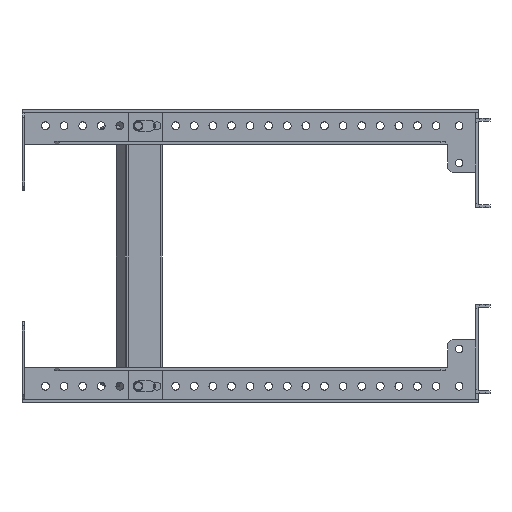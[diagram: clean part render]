
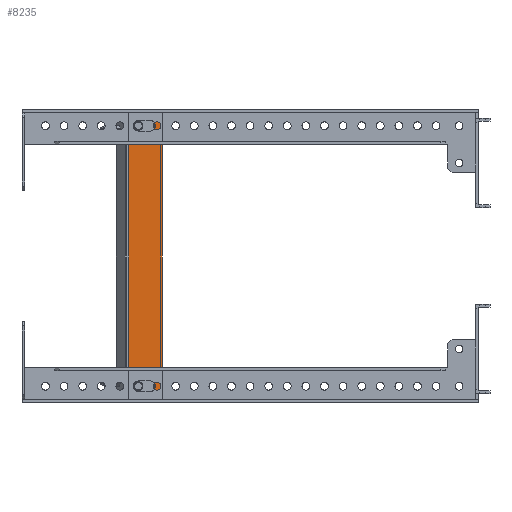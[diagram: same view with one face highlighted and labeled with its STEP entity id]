
A CAD part, front view. The second image highlights one B-rep face of the part: STEP entity #8235.
In plain terms, the highlighted planar face has unit normal (0, -1, 0).
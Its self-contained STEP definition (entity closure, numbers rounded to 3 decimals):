
#17 = VERTEX_POINT ( 'NONE', #3337 ) ;
#155 = CARTESIAN_POINT ( 'NONE',  ( 1112.27, -253.815, -87.5 ) ) ;
#318 = AXIS2_PLACEMENT_3D ( 'NONE', #4462, #26745, #6806 ) ;
#543 = ORIENTED_EDGE ( 'NONE', *, *, #15740, .F. ) ;
#720 = DIRECTION ( 'NONE',  ( 0., 0., 1. ) ) ;
#740 = CARTESIAN_POINT ( 'NONE',  ( 1112.27, -253.815, -87.5 ) ) ;
#890 = DIRECTION ( 'NONE',  ( 0., 1., 0. ) ) ;
#1353 = CARTESIAN_POINT ( 'NONE',  ( 1120.27, -253.815, -91. ) ) ;
#1825 = EDGE_LOOP ( 'NONE', ( #10260, #23550, #7452, #19256, #10959 ) ) ;
#2160 = VECTOR ( 'NONE', #27964, 1000. ) ;
#2493 = CARTESIAN_POINT ( 'NONE',  ( 1112.27, -253.815, 84. ) ) ;
#2789 = DIRECTION ( 'NONE',  ( 1., 0., 0. ) ) ;
#3027 = LINE ( 'NONE', #19038, #2160 ) ;
#3036 = VERTEX_POINT ( 'NONE', #24972 ) ;
#3078 = CARTESIAN_POINT ( 'NONE',  ( 1128.272, -253.815, -97.5 ) ) ;
#3115 = ORIENTED_EDGE ( 'NONE', *, *, #17587, .F. ) ;
#3142 = LINE ( 'NONE', #27764, #12387 ) ;
#3200 = AXIS2_PLACEMENT_3D ( 'NONE', #3317, #3455, #5795 ) ;
#3317 = CARTESIAN_POINT ( 'NONE',  ( 1112.27, -253.815, 87.5 ) ) ;
#3337 = CARTESIAN_POINT ( 'NONE',  ( 1120.27, -253.815, -84. ) ) ;
#3431 = ORIENTED_EDGE ( 'NONE', *, *, #8069, .F. ) ;
#3455 = DIRECTION ( 'NONE',  ( 0., 1., 0. ) ) ;
#3867 = EDGE_CURVE ( 'NONE', #24662, #13215, #24744, .T. ) ;
#4089 = CIRCLE ( 'NONE', #15793, 3.5 ) ;
#4462 = CARTESIAN_POINT ( 'NONE',  ( 1120.27, -253.815, 87.5 ) ) ;
#5795 = DIRECTION ( 'NONE',  ( -1., 0., 0. ) ) ;
#5936 = DIRECTION ( 'NONE',  ( -1., 0., 0. ) ) ;
#6148 = EDGE_CURVE ( 'NONE', #18555, #22406, #21404, .T. ) ;
#6234 = EDGE_CURVE ( 'NONE', #13215, #12507, #4089, .T. ) ;
#6350 = EDGE_CURVE ( 'NONE', #3036, #24662, #12973, .T. ) ;
#6570 = VERTEX_POINT ( 'NONE', #14425 ) ;
#6806 = DIRECTION ( 'NONE',  ( -1., 0., 0. ) ) ;
#6813 = VERTEX_POINT ( 'NONE', #9101 ) ;
#7278 = AXIS2_PLACEMENT_3D ( 'NONE', #27669, #7572, #16528 ) ;
#7364 = DIRECTION ( 'NONE',  ( 1., 0., 0. ) ) ;
#7428 = EDGE_CURVE ( 'NONE', #12507, #25730, #17265, .T. ) ;
#7437 = CARTESIAN_POINT ( 'NONE',  ( 1112.27, -253.815, 84. ) ) ;
#7452 = ORIENTED_EDGE ( 'NONE', *, *, #18800, .T. ) ;
#7495 = DIRECTION ( 'NONE',  ( -1., 0., 0. ) ) ;
#7572 = DIRECTION ( 'NONE',  ( 0., -1., 0. ) ) ;
#8008 = EDGE_CURVE ( 'NONE', #16270, #27980, #15580, .T. ) ;
#8069 = EDGE_CURVE ( 'NONE', #22406, #6813, #25697, .T. ) ;
#8233 = FACE_BOUND ( 'NONE', #12968, .T. ) ;
#8235 = ADVANCED_FACE ( 'NONE', ( #26112, #8233, #23624 ), #23785, .F. ) ;
#8678 = LINE ( 'NONE', #11165, #15634 ) ;
#8752 = AXIS2_PLACEMENT_3D ( 'NONE', #740, #16447, #7495 ) ;
#9101 = CARTESIAN_POINT ( 'NONE',  ( 1112.27, -253.815, -91. ) ) ;
#9198 = DIRECTION ( 'NONE',  ( -1., 0., 0. ) ) ;
#9845 = DIRECTION ( 'NONE',  ( 1., 0., 0. ) ) ;
#10260 = ORIENTED_EDGE ( 'NONE', *, *, #6234, .T. ) ;
#10564 = CIRCLE ( 'NONE', #7278, 3.5 ) ;
#10959 = ORIENTED_EDGE ( 'NONE', *, *, #3867, .T. ) ;
#10985 = VECTOR ( 'NONE', #9198, 1000. ) ;
#11039 = CARTESIAN_POINT ( 'NONE',  ( 1150.113, -253.815, -97.5 ) ) ;
#11165 = CARTESIAN_POINT ( 'NONE',  ( 1105.77, -253.815, -97.5 ) ) ;
#11217 = ORIENTED_EDGE ( 'NONE', *, *, #25910, .T. ) ;
#11560 = ORIENTED_EDGE ( 'NONE', *, *, #23592, .F. ) ;
#12387 = VECTOR ( 'NONE', #5936, 1000. ) ;
#12398 = CARTESIAN_POINT ( 'NONE',  ( 1108.77, -253.815, 87.5 ) ) ;
#12507 = VERTEX_POINT ( 'NONE', #12398 ) ;
#12589 = AXIS2_PLACEMENT_3D ( 'NONE', #155, #27277, #18070 ) ;
#12968 = EDGE_LOOP ( 'NONE', ( #543, #3431, #16939, #3115, #23698 ) ) ;
#12973 = CIRCLE ( 'NONE', #318, 3.5 ) ;
#13215 = VERTEX_POINT ( 'NONE', #2493 ) ;
#13633 = VERTEX_POINT ( 'NONE', #22852 ) ;
#14425 = CARTESIAN_POINT ( 'NONE',  ( 1105.77, -253.815, 97.5 ) ) ;
#14914 = EDGE_CURVE ( 'NONE', #25631, #17, #10564, .T. ) ;
#15277 = VECTOR ( 'NONE', #720, 1000. ) ;
#15306 = VECTOR ( 'NONE', #7364, 1000. ) ;
#15580 = LINE ( 'NONE', #11039, #19634 ) ;
#15634 = VECTOR ( 'NONE', #26832, 1000. ) ;
#15739 = DIRECTION ( 'NONE',  ( -1., 0., 0. ) ) ;
#15740 = EDGE_CURVE ( 'NONE', #6813, #25631, #27288, .T. ) ;
#15793 = AXIS2_PLACEMENT_3D ( 'NONE', #16687, #16391, #25312 ) ;
#16270 = VERTEX_POINT ( 'NONE', #3078 ) ;
#16391 = DIRECTION ( 'NONE',  ( 0., 1., 0. ) ) ;
#16447 = DIRECTION ( 'NONE',  ( 0., -1., 0. ) ) ;
#16528 = DIRECTION ( 'NONE',  ( -1., 0., 0. ) ) ;
#16610 = VECTOR ( 'NONE', #2789, 1000. ) ;
#16687 = CARTESIAN_POINT ( 'NONE',  ( 1112.27, -253.815, 87.5 ) ) ;
#16939 = ORIENTED_EDGE ( 'NONE', *, *, #6148, .F. ) ;
#17260 = EDGE_CURVE ( 'NONE', #27980, #6570, #8678, .T. ) ;
#17265 = CIRCLE ( 'NONE', #3200, 3.5 ) ;
#17587 = EDGE_CURVE ( 'NONE', #17, #18555, #3142, .T. ) ;
#18070 = DIRECTION ( 'NONE',  ( -1., 0., 0. ) ) ;
#18492 = CARTESIAN_POINT ( 'NONE',  ( 1105.77, -253.815, 97.5 ) ) ;
#18555 = VERTEX_POINT ( 'NONE', #21983 ) ;
#18800 = EDGE_CURVE ( 'NONE', #25730, #3036, #3027, .T. ) ;
#19038 = CARTESIAN_POINT ( 'NONE',  ( 1112.27, -253.815, 91. ) ) ;
#19256 = ORIENTED_EDGE ( 'NONE', *, *, #6350, .T. ) ;
#19634 = VECTOR ( 'NONE', #15739, 1000. ) ;
#19963 = ORIENTED_EDGE ( 'NONE', *, *, #8008, .F. ) ;
#20000 = CARTESIAN_POINT ( 'NONE',  ( 1120.27, -253.815, 84. ) ) ;
#20435 = CARTESIAN_POINT ( 'NONE',  ( 1112.27, -253.815, -91. ) ) ;
#20821 = LINE ( 'NONE', #27122, #15277 ) ;
#20996 = CARTESIAN_POINT ( 'NONE',  ( 1150.737, -253.815, 0. ) ) ;
#21404 = CIRCLE ( 'NONE', #8752, 3.5 ) ;
#21510 = EDGE_LOOP ( 'NONE', ( #11560, #26325, #19963, #11217 ) ) ;
#21983 = CARTESIAN_POINT ( 'NONE',  ( 1112.27, -253.815, -84. ) ) ;
#22406 = VERTEX_POINT ( 'NONE', #22845 ) ;
#22521 = CARTESIAN_POINT ( 'NONE',  ( 1105.77, -253.815, -97.5 ) ) ;
#22845 = CARTESIAN_POINT ( 'NONE',  ( 1108.77, -253.815, -87.5 ) ) ;
#22852 = CARTESIAN_POINT ( 'NONE',  ( 1128.272, -253.815, 97.5 ) ) ;
#23026 = LINE ( 'NONE', #18492, #16610 ) ;
#23550 = ORIENTED_EDGE ( 'NONE', *, *, #7428, .T. ) ;
#23592 = EDGE_CURVE ( 'NONE', #6570, #13633, #23026, .T. ) ;
#23624 = FACE_BOUND ( 'NONE', #1825, .T. ) ;
#23698 = ORIENTED_EDGE ( 'NONE', *, *, #14914, .F. ) ;
#23785 = PLANE ( 'NONE',  #24321 ) ;
#24321 = AXIS2_PLACEMENT_3D ( 'NONE', #20996, #890, #9845 ) ;
#24662 = VERTEX_POINT ( 'NONE', #20000 ) ;
#24744 = LINE ( 'NONE', #7437, #10985 ) ;
#24972 = CARTESIAN_POINT ( 'NONE',  ( 1120.27, -253.815, 91. ) ) ;
#25312 = DIRECTION ( 'NONE',  ( -1., 0., 0. ) ) ;
#25631 = VERTEX_POINT ( 'NONE', #1353 ) ;
#25697 = CIRCLE ( 'NONE', #12589, 3.5 ) ;
#25730 = VERTEX_POINT ( 'NONE', #28325 ) ;
#25910 = EDGE_CURVE ( 'NONE', #16270, #13633, #20821, .T. ) ;
#26112 = FACE_OUTER_BOUND ( 'NONE', #21510, .T. ) ;
#26325 = ORIENTED_EDGE ( 'NONE', *, *, #17260, .F. ) ;
#26745 = DIRECTION ( 'NONE',  ( 0., 1., 0. ) ) ;
#26832 = DIRECTION ( 'NONE',  ( 0., 0., 1. ) ) ;
#27122 = CARTESIAN_POINT ( 'NONE',  ( 1128.272, -253.815, -100.859 ) ) ;
#27277 = DIRECTION ( 'NONE',  ( 0., -1., 0. ) ) ;
#27288 = LINE ( 'NONE', #20435, #15306 ) ;
#27669 = CARTESIAN_POINT ( 'NONE',  ( 1120.27, -253.815, -87.5 ) ) ;
#27764 = CARTESIAN_POINT ( 'NONE',  ( 1112.27, -253.815, -84. ) ) ;
#27964 = DIRECTION ( 'NONE',  ( 1., 0., 0. ) ) ;
#27980 = VERTEX_POINT ( 'NONE', #22521 ) ;
#28325 = CARTESIAN_POINT ( 'NONE',  ( 1112.27, -253.815, 91. ) ) ;
